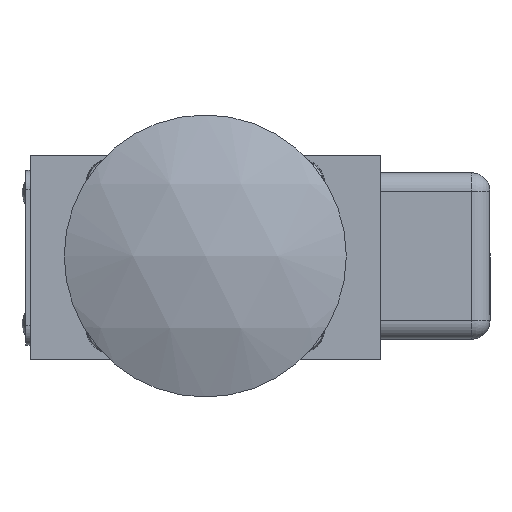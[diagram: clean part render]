
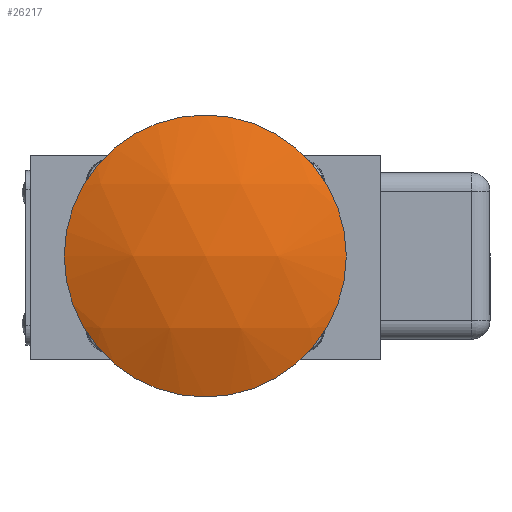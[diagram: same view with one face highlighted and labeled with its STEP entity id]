
A CAD part, left-side view. The second image highlights one B-rep face of the part: STEP entity #26217.
In plain terms, the highlighted spherical face has radius 53.924 mm.
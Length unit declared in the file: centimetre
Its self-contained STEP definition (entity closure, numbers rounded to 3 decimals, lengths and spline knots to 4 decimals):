
#52=SPHERICAL_SURFACE('',#29000,5.3924);
#6043=FACE_OUTER_BOUND('',#7737,.T.);
#7737=EDGE_LOOP('',(#21298));
#9404=CIRCLE('',#28999,2.3019);
#11552=VERTEX_POINT('',#47358);
#14882=EDGE_CURVE('',#11552,#11552,#9404,.T.);
#21298=ORIENTED_EDGE('',*,*,#14882,.F.);
#26217=ADVANCED_FACE('',(#6043),#52,.T.);
#28999=AXIS2_PLACEMENT_3D('',#47360,#35660,#35661);
#29000=AXIS2_PLACEMENT_3D('',#47361,#35662,#35663);
#35660=DIRECTION('center_axis',(1.,0.,0.));
#35661=DIRECTION('ref_axis',(0.,-1.,0.));
#35662=DIRECTION('center_axis',(0.,0.,-1.));
#35663=DIRECTION('ref_axis',(-1.,0.,0.));
#47358=CARTESIAN_POINT('',(-9.9323,2.3019,0.0305));
#47360=CARTESIAN_POINT('Origin',(-9.9323,0.,
0.0305));
#47361=CARTESIAN_POINT('Origin',(-5.0559,0.,
0.0305));
